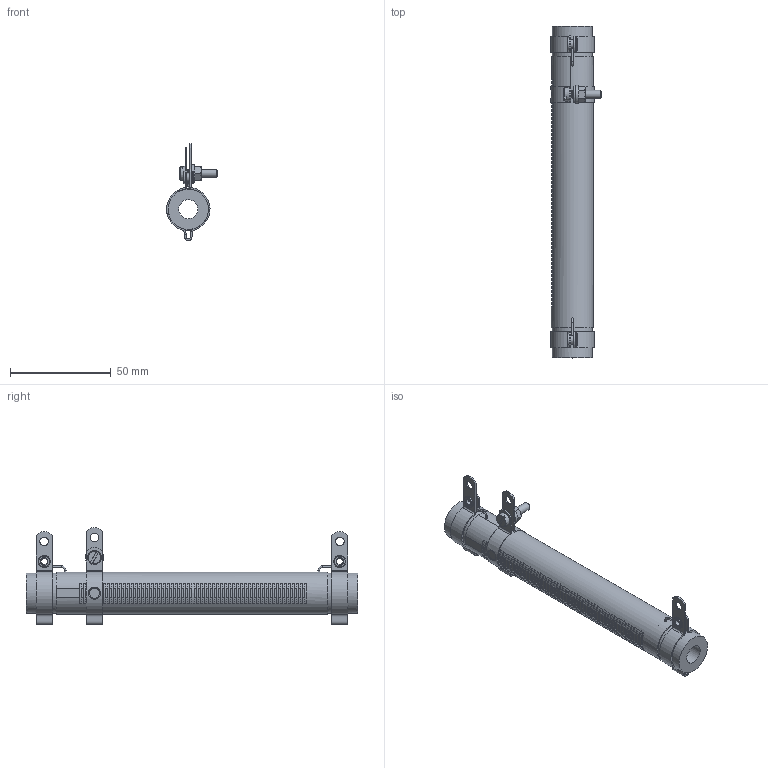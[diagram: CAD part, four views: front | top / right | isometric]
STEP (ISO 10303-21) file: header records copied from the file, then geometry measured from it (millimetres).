
FILE_DESCRIPTION(/* description */ (''),/* implementation_level */ '2;1');
FILE_NAME(/* name */ 'C:\_Vault\Dati\CATALOGO\RC-RS\RCR-RSR TC\RSR TC 110.stp',/* time_stamp */ '2014-03-20T11:28:52+01:00',/* author */ ('stefano'),/* organization */ (''),/* preprocessor_version */ 'ST-DEVELOPER v15.2',/* originating_system */ 'Autodesk Inventor 2014',/* authorisation */ '');
FILE_SCHEMA (('AUTOMOTIVE_DESIGN { 1 0 10303 214 3 1 1 }'));
Length unit declared in the file: millimetre
Products named in the file (1): RSR TC 110
Bounding box: 25.25 x 165 x 48.2 mm (x, y, z)
Volume: 46319.2 mm3; surface area: 20025.3 mm2
Topology: 1 solids, 5 shells, 477 faces, 1335 edges, 882 vertices
Faces by surface type: plane 325, cylinder 112, cone 16, torus 12, bspline 12
Full cylindrical faces by diameter (mm): 0.4 x2, 0.8 x6, 3.2 x2, 3.571 x1, 4 x2, 4.2 x7, 4.3 x1, 6 x4, 9 x1, 9.5 x1, 20 x2, 21 x1
Entity records: 16355 total; most frequent: CARTESIAN_POINT 3507, DIRECTION 2610, ORIENTED_EDGE 2550, EDGE_CURVE 1275, AXIS2_PLACEMENT_3D 938, VERTEX_POINT 867, LINE 734, VECTOR 734
